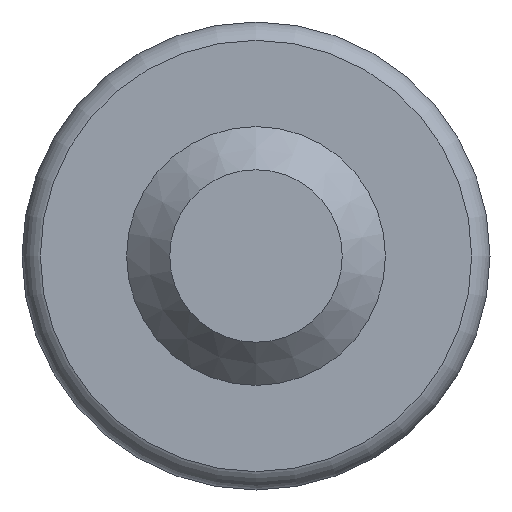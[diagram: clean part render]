
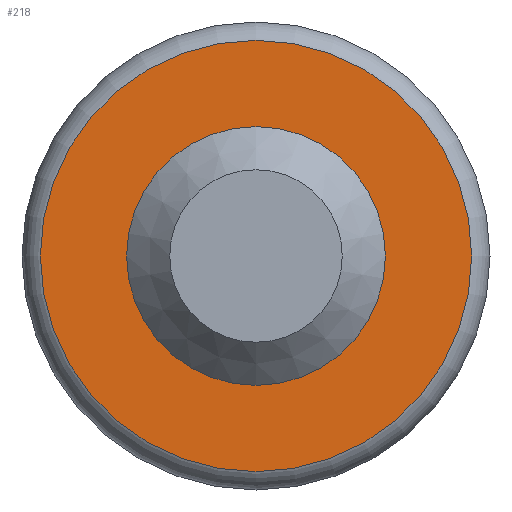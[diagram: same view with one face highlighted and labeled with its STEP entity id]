
A CAD part, front view. The second image highlights one B-rep face of the part: STEP entity #218.
In plain terms, the highlighted planar face has unit normal (0, -1, 0).
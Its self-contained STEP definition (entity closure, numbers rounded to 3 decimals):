
#35 = EDGE_LOOP ( 'NONE', ( #330 ) ) ;
#67 = EDGE_LOOP ( 'NONE', ( #403 ) ) ;
#68 = FACE_BOUND ( 'NONE', #67, .T. ) ;
#85 = CIRCLE ( 'NONE', #348, 3. ) ;
#145 = DIRECTION ( 'NONE',  ( 0., 0., 1. ) ) ;
#175 = CARTESIAN_POINT ( 'NONE',  ( 0., -23., 0. ) ) ;
#213 = CARTESIAN_POINT ( 'NONE',  ( 3., -23., 0. ) ) ;
#218 = ADVANCED_FACE ( 'NONE', ( #249, #68 ), #359, .F. ) ;
#225 = EDGE_CURVE ( 'NONE', #346, #346, #85, .T. ) ;
#231 = EDGE_CURVE ( 'NONE', #270, #270, #473, .T. ) ;
#249 = FACE_OUTER_BOUND ( 'NONE', #35, .T. ) ;
#270 = VERTEX_POINT ( 'NONE', #343 ) ;
#273 = AXIS2_PLACEMENT_3D ( 'NONE', #468, #461, #349 ) ;
#290 = AXIS2_PLACEMENT_3D ( 'NONE', #213, #316, #357 ) ;
#316 = DIRECTION ( 'NONE',  ( 0., 1., 0. ) ) ;
#321 = DIRECTION ( 'NONE',  ( 0., 1., 0. ) ) ;
#330 = ORIENTED_EDGE ( 'NONE', *, *, #231, .F. ) ;
#343 = CARTESIAN_POINT ( 'NONE',  ( 0., -23., 5. ) ) ;
#346 = VERTEX_POINT ( 'NONE', #414 ) ;
#348 = AXIS2_PLACEMENT_3D ( 'NONE', #175, #321, #145 ) ;
#349 = DIRECTION ( 'NONE',  ( 0., 0., 1. ) ) ;
#357 = DIRECTION ( 'NONE',  ( 0., 0., 1. ) ) ;
#359 = PLANE ( 'NONE',  #290 ) ;
#403 = ORIENTED_EDGE ( 'NONE', *, *, #225, .T. ) ;
#414 = CARTESIAN_POINT ( 'NONE',  ( 0., -23., 3. ) ) ;
#461 = DIRECTION ( 'NONE',  ( 0., 1., 0. ) ) ;
#468 = CARTESIAN_POINT ( 'NONE',  ( 0., -23., 0. ) ) ;
#473 = CIRCLE ( 'NONE', #273, 5. ) ;
